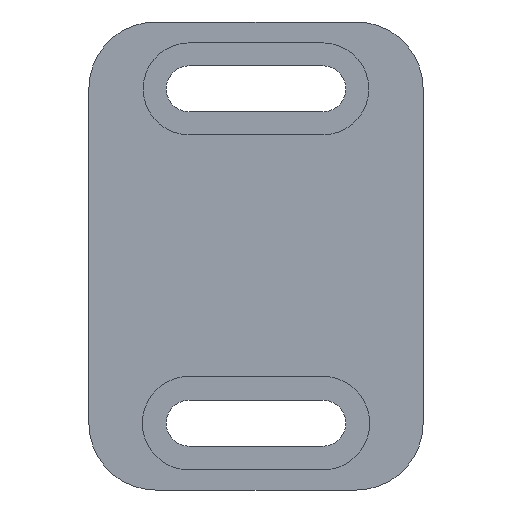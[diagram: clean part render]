
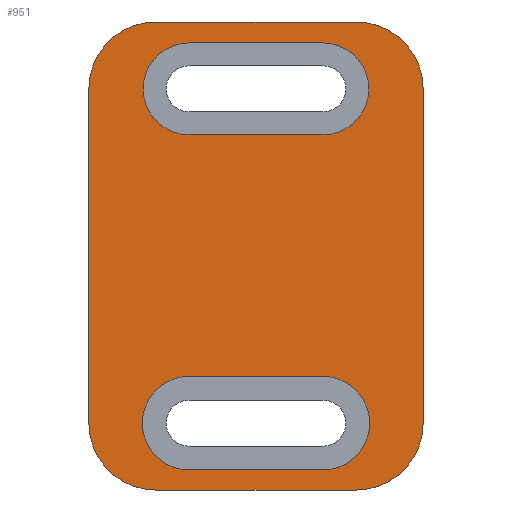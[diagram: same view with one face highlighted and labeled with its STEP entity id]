
A CAD part, front view. The second image highlights one B-rep face of the part: STEP entity #951.
In plain terms, the highlighted planar face has unit normal (0, -1, 0).
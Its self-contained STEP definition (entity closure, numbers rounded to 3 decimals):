
#182=CARTESIAN_POINT('',(-12.,-17.,20.));
#183=DIRECTION('',(0.,1.,0.));
#184=DIRECTION('',(-1.,0.,0.));
#185=AXIS2_PLACEMENT_3D('',#182,#183,#184);
#190=CARTESIAN_POINT('',(12.,-17.,20.));
#191=DIRECTION('',(0.,1.,0.));
#192=DIRECTION('',(0.,0.,1.));
#193=AXIS2_PLACEMENT_3D('',#190,#191,#192);
#198=CARTESIAN_POINT('',(12.,-17.,-20.));
#199=DIRECTION('',(0.,1.,0.));
#200=DIRECTION('',(1.,0.,0.));
#201=AXIS2_PLACEMENT_3D('',#198,#199,#200);
#206=CARTESIAN_POINT('',(-12.,-17.,-20.));
#207=DIRECTION('',(0.,1.,0.));
#208=DIRECTION('',(0.,0.,-1.));
#209=AXIS2_PLACEMENT_3D('',#206,#207,#208);
#214=CARTESIAN_POINT('',(-8.,-17.,-20.));
#215=DIRECTION('',(0.,-1.,0.));
#216=DIRECTION('',(0.,0.,1.));
#217=AXIS2_PLACEMENT_3D('',#214,#215,#216);
#222=DIRECTION('',(1.,0.,0.));
#223=VECTOR('',#222,16.);
#224=CARTESIAN_POINT('',(-8.,-17.,-25.6));
#225=LINE('',#224,#223);
#229=CARTESIAN_POINT('',(8.,-17.,-20.));
#230=DIRECTION('',(0.,-1.,0.));
#231=DIRECTION('',(0.,0.,-1.));
#232=AXIS2_PLACEMENT_3D('',#229,#230,#231);
#237=DIRECTION('',(-1.,0.,0.));
#238=VECTOR('',#237,16.);
#239=CARTESIAN_POINT('',(8.,-17.,-14.4));
#240=LINE('',#239,#238);
#244=CARTESIAN_POINT('',(8.,-17.,20.));
#245=DIRECTION('',(0.,-1.,0.));
#246=DIRECTION('',(0.,0.,-1.));
#247=AXIS2_PLACEMENT_3D('',#244,#245,#246);
#252=DIRECTION('',(-1.,0.,0.));
#253=VECTOR('',#252,16.);
#254=CARTESIAN_POINT('',(8.,-17.,25.5));
#255=LINE('',#254,#253);
#259=CARTESIAN_POINT('',(-8.,-17.,20.));
#260=DIRECTION('',(0.,-1.,0.));
#261=DIRECTION('',(0.,0.,1.));
#262=AXIS2_PLACEMENT_3D('',#259,#260,#261);
#267=DIRECTION('',(1.,0.,0.));
#268=VECTOR('',#267,16.);
#269=CARTESIAN_POINT('',(-8.,-17.,14.5));
#270=LINE('',#269,#268);
#303=DIRECTION('',(-1.,0.,0.));
#304=VECTOR('',#303,24.);
#305=CARTESIAN_POINT('',(12.,-17.,28.));
#306=LINE('',#305,#304);
#339=DIRECTION('',(0.,0.,1.));
#340=VECTOR('',#339,40.);
#341=CARTESIAN_POINT('',(20.,-17.,-20.));
#342=LINE('',#341,#340);
#390=DIRECTION('',(1.,0.,0.));
#391=VECTOR('',#390,24.);
#392=CARTESIAN_POINT('',(-12.,-17.,-28.));
#393=LINE('',#392,#391);
#426=DIRECTION('',(0.,0.,-1.));
#427=VECTOR('',#426,40.);
#428=CARTESIAN_POINT('',(-20.,-17.,20.));
#429=LINE('',#428,#427);
#644=CARTESIAN_POINT('',(12.,-17.,28.));
#645=CARTESIAN_POINT('',(20.,-17.,20.));
#646=VERTEX_POINT('',#644);
#647=VERTEX_POINT('',#645);
#648=CARTESIAN_POINT('',(-12.,-17.,28.));
#649=VERTEX_POINT('',#648);
#650=CARTESIAN_POINT('',(-20.,-17.,20.));
#651=VERTEX_POINT('',#650);
#652=CARTESIAN_POINT('',(-20.,-17.,-20.));
#653=VERTEX_POINT('',#652);
#654=CARTESIAN_POINT('',(-12.,-17.,-28.));
#655=VERTEX_POINT('',#654);
#656=CARTESIAN_POINT('',(12.,-17.,-28.));
#657=VERTEX_POINT('',#656);
#658=CARTESIAN_POINT('',(20.,-17.,-20.));
#659=VERTEX_POINT('',#658);
#660=CARTESIAN_POINT('',(-8.,-17.,-14.4));
#661=CARTESIAN_POINT('',(-8.,-17.,-25.6));
#662=VERTEX_POINT('',#660);
#663=VERTEX_POINT('',#661);
#664=CARTESIAN_POINT('',(8.,-17.,-25.6));
#665=VERTEX_POINT('',#664);
#666=CARTESIAN_POINT('',(8.,-17.,-14.4));
#667=VERTEX_POINT('',#666);
#668=CARTESIAN_POINT('',(8.,-17.,14.5));
#669=CARTESIAN_POINT('',(8.,-17.,25.5));
#670=VERTEX_POINT('',#668);
#671=VERTEX_POINT('',#669);
#672=CARTESIAN_POINT('',(-8.,-17.,25.5));
#673=VERTEX_POINT('',#672);
#674=CARTESIAN_POINT('',(-8.,-17.,14.5));
#675=VERTEX_POINT('',#674);
#909=CARTESIAN_POINT('',(0.,-17.,0.));
#910=DIRECTION('',(0.,-1.,0.));
#911=DIRECTION('',(1.,0.,0.));
#912=AXIS2_PLACEMENT_3D('',#909,#910,#911);
#913=PLANE('',#912);
#915=ORIENTED_EDGE('',*,*,#914,.T.);
#917=ORIENTED_EDGE('',*,*,#916,.F.);
#919=ORIENTED_EDGE('',*,*,#918,.T.);
#921=ORIENTED_EDGE('',*,*,#920,.F.);
#923=ORIENTED_EDGE('',*,*,#922,.T.);
#925=ORIENTED_EDGE('',*,*,#924,.F.);
#927=ORIENTED_EDGE('',*,*,#926,.T.);
#929=ORIENTED_EDGE('',*,*,#928,.F.);
#930=EDGE_LOOP('',(#915,#917,#919,#921,#923,#925,#927,#929));
#931=FACE_OUTER_BOUND('',#930,.F.);
#932=ORIENTED_EDGE('',*,*,#887,.T.);
#934=ORIENTED_EDGE('',*,*,#933,.T.);
#936=ORIENTED_EDGE('',*,*,#935,.T.);
#938=ORIENTED_EDGE('',*,*,#937,.T.);
#939=EDGE_LOOP('',(#932,#934,#936,#938));
#940=FACE_BOUND('',#939,.F.);
#942=ORIENTED_EDGE('',*,*,#941,.T.);
#944=ORIENTED_EDGE('',*,*,#943,.T.);
#946=ORIENTED_EDGE('',*,*,#945,.T.);
#948=ORIENTED_EDGE('',*,*,#947,.T.);
#949=EDGE_LOOP('',(#942,#944,#946,#948));
#950=FACE_BOUND('',#949,.F.);
#186=CIRCLE('',#185,8.);
#194=CIRCLE('',#193,8.);
#202=CIRCLE('',#201,8.);
#210=CIRCLE('',#209,8.);
#218=CIRCLE('',#217,5.6);
#233=CIRCLE('',#232,5.6);
#248=CIRCLE('',#247,5.5);
#263=CIRCLE('',#262,5.5);
#887=EDGE_CURVE('',#662,#663,#218,.T.);
#914=EDGE_CURVE('',#651,#649,#186,.T.);
#916=EDGE_CURVE('',#646,#649,#306,.T.);
#918=EDGE_CURVE('',#646,#647,#194,.T.);
#920=EDGE_CURVE('',#659,#647,#342,.T.);
#922=EDGE_CURVE('',#659,#657,#202,.T.);
#924=EDGE_CURVE('',#655,#657,#393,.T.);
#926=EDGE_CURVE('',#655,#653,#210,.T.);
#928=EDGE_CURVE('',#651,#653,#429,.T.);
#933=EDGE_CURVE('',#663,#665,#225,.T.);
#935=EDGE_CURVE('',#665,#667,#233,.T.);
#937=EDGE_CURVE('',#667,#662,#240,.T.);
#941=EDGE_CURVE('',#670,#671,#248,.T.);
#943=EDGE_CURVE('',#671,#673,#255,.T.);
#945=EDGE_CURVE('',#673,#675,#263,.T.);
#947=EDGE_CURVE('',#675,#670,#270,.T.);
#951=ADVANCED_FACE('',(#931,#940,#950),#913,.T.);
